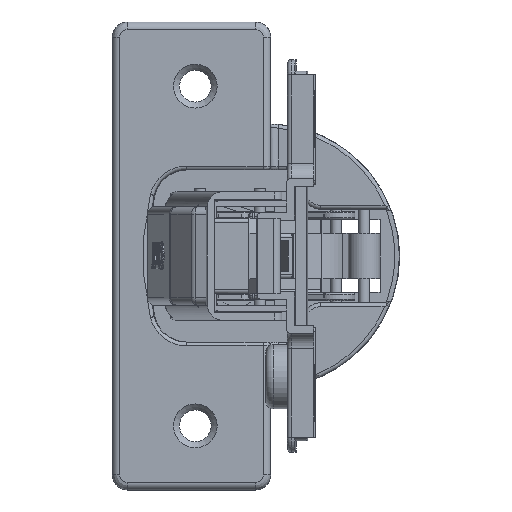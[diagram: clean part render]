
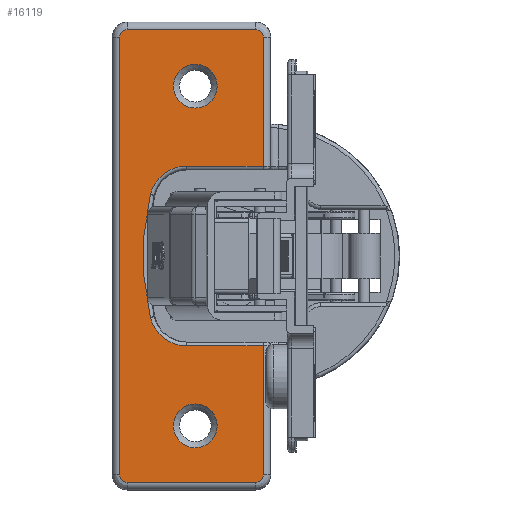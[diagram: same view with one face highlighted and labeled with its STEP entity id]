
A CAD part, left-side view. The second image highlights one B-rep face of the part: STEP entity #16119.
In plain terms, the highlighted planar face has unit normal (-1, 0.007, 0) as drawn and (0.179, 0.984, 0) by its records, which use the part's own axes.
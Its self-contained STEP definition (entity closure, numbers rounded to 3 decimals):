
#420=FACE_BOUND('',#2427,.T.);
#421=FACE_BOUND('',#2428,.T.);
#759=PLANE('',#17798);
#1492=FACE_OUTER_BOUND('',#2426,.T.);
#2426=EDGE_LOOP('',(#12789,#12790,#12791,#12792,#12793,#12794,#12795,#12796,
#12797,#12798,#12799,#12800,#12801,#12802));
#2427=EDGE_LOOP('',(#12803,#12804));
#2428=EDGE_LOOP('',(#12805,#12806));
#3498=LINE('',#26243,#4835);
#3500=LINE('',#26267,#4837);
#3589=LINE('',#26696,#4926);
#3590=LINE('',#26715,#4927);
#3592=LINE('',#26735,#4929);
#3594=LINE('',#26755,#4931);
#3596=LINE('',#26771,#4933);
#4835=VECTOR('',#20818,10.);
#4837=VECTOR('',#20848,10.);
#4926=VECTOR('',#21335,10.);
#4927=VECTOR('',#21346,10.);
#4929=VECTOR('',#21358,10.);
#4931=VECTOR('',#21370,10.);
#4933=VECTOR('',#21380,10.);
#5786=CIRCLE('',#17485,2.9);
#5787=CIRCLE('',#17486,2.9);
#5790=CIRCLE('',#17490,2.9);
#5791=CIRCLE('',#17491,2.9);
#5821=CIRCLE('',#17538,4.9);
#5824=CIRCLE('',#17542,34.9);
#5827=CIRCLE('',#17546,4.9);
#5946=CIRCLE('',#17750,1.);
#5950=CIRCLE('',#17755,1.);
#5954=CIRCLE('',#17760,1.);
#5958=CIRCLE('',#17765,1.);
#6921=VERTEX_POINT('',#25966);
#6922=VERTEX_POINT('',#25967);
#6925=VERTEX_POINT('',#25976);
#6926=VERTEX_POINT('',#25977);
#6960=VERTEX_POINT('',#26235);
#6962=VERTEX_POINT('',#26241);
#6964=VERTEX_POINT('',#26247);
#6966=VERTEX_POINT('',#26253);
#6968=VERTEX_POINT('',#26259);
#6970=VERTEX_POINT('',#26265);
#7088=VERTEX_POINT('',#26694);
#7090=VERTEX_POINT('',#26707);
#7092=VERTEX_POINT('',#26713);
#7094=VERTEX_POINT('',#26727);
#7096=VERTEX_POINT('',#26733);
#7098=VERTEX_POINT('',#26747);
#7100=VERTEX_POINT('',#26753);
#7101=VERTEX_POINT('',#26766);
#8768=EDGE_CURVE('',#6921,#6922,#5786,.T.);
#8769=EDGE_CURVE('',#6922,#6921,#5787,.T.);
#8773=EDGE_CURVE('',#6925,#6926,#5790,.T.);
#8774=EDGE_CURVE('',#6926,#6925,#5791,.T.);
#8829=EDGE_CURVE('',#6962,#6960,#3498,.T.);
#8832=EDGE_CURVE('',#6964,#6962,#5821,.T.);
#8835=EDGE_CURVE('',#6966,#6964,#5824,.T.);
#8838=EDGE_CURVE('',#6968,#6966,#5827,.T.);
#8841=EDGE_CURVE('',#6970,#6968,#3500,.T.);
#9049=EDGE_CURVE('',#7088,#6970,#3589,.T.);
#9051=EDGE_CURVE('',#7090,#7088,#5946,.T.);
#9054=EDGE_CURVE('',#7092,#7090,#3590,.T.);
#9057=EDGE_CURVE('',#7094,#7092,#5950,.T.);
#9060=EDGE_CURVE('',#7096,#7094,#3592,.T.);
#9063=EDGE_CURVE('',#7098,#7096,#5954,.T.);
#9066=EDGE_CURVE('',#7100,#7098,#3594,.T.);
#9069=EDGE_CURVE('',#7101,#7100,#5958,.T.);
#9071=EDGE_CURVE('',#6960,#7101,#3596,.T.);
#12789=ORIENTED_EDGE('',*,*,#8841,.F.);
#12790=ORIENTED_EDGE('',*,*,#9049,.F.);
#12791=ORIENTED_EDGE('',*,*,#9051,.F.);
#12792=ORIENTED_EDGE('',*,*,#9054,.F.);
#12793=ORIENTED_EDGE('',*,*,#9057,.F.);
#12794=ORIENTED_EDGE('',*,*,#9060,.F.);
#12795=ORIENTED_EDGE('',*,*,#9063,.F.);
#12796=ORIENTED_EDGE('',*,*,#9066,.F.);
#12797=ORIENTED_EDGE('',*,*,#9069,.F.);
#12798=ORIENTED_EDGE('',*,*,#9071,.F.);
#12799=ORIENTED_EDGE('',*,*,#8829,.F.);
#12800=ORIENTED_EDGE('',*,*,#8832,.F.);
#12801=ORIENTED_EDGE('',*,*,#8835,.F.);
#12802=ORIENTED_EDGE('',*,*,#8838,.F.);
#12803=ORIENTED_EDGE('',*,*,#8768,.T.);
#12804=ORIENTED_EDGE('',*,*,#8769,.T.);
#12805=ORIENTED_EDGE('',*,*,#8773,.T.);
#12806=ORIENTED_EDGE('',*,*,#8774,.T.);
#16119=ADVANCED_FACE('',(#1492,#420,#421),#759,.F.);
#17485=AXIS2_PLACEMENT_3D('',#25968,#20701,#20702);
#17486=AXIS2_PLACEMENT_3D('',#25969,#20703,#20704);
#17490=AXIS2_PLACEMENT_3D('',#25978,#20712,#20713);
#17491=AXIS2_PLACEMENT_3D('',#25979,#20714,#20715);
#17538=AXIS2_PLACEMENT_3D('',#26249,#20824,#20825);
#17542=AXIS2_PLACEMENT_3D('',#26255,#20832,#20833);
#17546=AXIS2_PLACEMENT_3D('',#26261,#20840,#20841);
#17750=AXIS2_PLACEMENT_3D('',#26709,#21338,#21339);
#17755=AXIS2_PLACEMENT_3D('',#26729,#21350,#21351);
#17760=AXIS2_PLACEMENT_3D('',#26749,#21362,#21363);
#17765=AXIS2_PLACEMENT_3D('',#26768,#21374,#21375);
#17798=AXIS2_PLACEMENT_3D('',#26849,#21467,#21468);
#20701=DIRECTION('center_axis',(-0.179,-0.984,0.));
#20702=DIRECTION('ref_axis',(0.984,-0.179,0.));
#20703=DIRECTION('center_axis',(-0.179,-0.984,0.));
#20704=DIRECTION('ref_axis',(0.984,-0.179,0.));
#20712=DIRECTION('center_axis',(-0.179,-0.984,0.));
#20713=DIRECTION('ref_axis',(0.984,-0.179,0.));
#20714=DIRECTION('center_axis',(-0.179,-0.984,0.));
#20715=DIRECTION('ref_axis',(0.984,-0.179,0.));
#20818=DIRECTION('',(-0.984,0.179,0.));
#20824=DIRECTION('center_axis',(0.179,0.984,0.));
#20825=DIRECTION('ref_axis',(0.609,-0.111,-0.785));
#20832=DIRECTION('center_axis',(0.179,0.984,0.));
#20833=DIRECTION('ref_axis',(0.984,-0.179,0.));
#20840=DIRECTION('center_axis',(0.179,0.984,0.));
#20841=DIRECTION('ref_axis',(0.609,-0.111,0.785));
#20848=DIRECTION('',(0.984,-0.179,0.));
#21335=DIRECTION('',(0.,0.,-1.));
#21338=DIRECTION('center_axis',(-0.179,-0.984,0.));
#21339=DIRECTION('ref_axis',(-0.696,0.126,0.707));
#21346=DIRECTION('',(-0.984,0.179,0.));
#21350=DIRECTION('center_axis',(-0.179,-0.984,0.));
#21351=DIRECTION('ref_axis',(0.696,-0.126,0.707));
#21358=DIRECTION('',(0.,0.,1.));
#21362=DIRECTION('center_axis',(-0.179,-0.984,0.));
#21363=DIRECTION('ref_axis',(0.696,-0.126,-0.707));
#21370=DIRECTION('',(0.984,-0.179,0.));
#21374=DIRECTION('center_axis',(-0.179,-0.984,0.));
#21375=DIRECTION('ref_axis',(-0.696,0.126,-0.707));
#21380=DIRECTION('',(0.,0.,-1.));
#21467=DIRECTION('center_axis',(-0.179,-0.984,0.));
#21468=DIRECTION('ref_axis',(0.,0.,-1.));
#25966=CARTESIAN_POINT('',(96.988,17.389,-22.5));
#25967=CARTESIAN_POINT('',(91.281,18.424,-22.5));
#25968=CARTESIAN_POINT('Origin',(94.135,17.906,-22.5));
#25969=CARTESIAN_POINT('Origin',(94.135,17.906,-22.5));
#25976=CARTESIAN_POINT('',(96.988,17.389,22.5));
#25977=CARTESIAN_POINT('',(91.281,18.424,22.5));
#25978=CARTESIAN_POINT('Origin',(94.135,17.906,22.5));
#25979=CARTESIAN_POINT('Origin',(94.135,17.906,22.5));
#26235=CARTESIAN_POINT('',(85.279,19.514,-11.9));
#26241=CARTESIAN_POINT('',(95.288,17.697,-11.9));
#26243=CARTESIAN_POINT('',(89.033,18.832,-11.9));
#26247=CARTESIAN_POINT('',(99.976,16.846,-8.143));
#26249=CARTESIAN_POINT('Origin',(95.288,17.697,-7.));
#26253=CARTESIAN_POINT('',(99.976,16.846,8.143));
#26255=CARTESIAN_POINT('Origin',(66.585,22.906,0.));
#26259=CARTESIAN_POINT('',(95.288,17.697,11.9));
#26261=CARTESIAN_POINT('Origin',(95.288,17.697,7.));
#26265=CARTESIAN_POINT('',(85.279,19.514,11.9));
#26267=CARTESIAN_POINT('',(95.574,17.645,11.9));
#26694=CARTESIAN_POINT('',(85.279,19.514,29.));
#26696=CARTESIAN_POINT('',(85.279,19.514,5.7));
#26707=CARTESIAN_POINT('',(86.263,19.335,30.));
#26709=CARTESIAN_POINT('Origin',(86.263,19.335,29.));
#26713=CARTESIAN_POINT('',(102.99,16.299,30.));
#26715=CARTESIAN_POINT('',(91.062,18.464,30.));
#26727=CARTESIAN_POINT('',(103.974,16.121,29.));
#26729=CARTESIAN_POINT('Origin',(102.99,16.299,29.));
#26733=CARTESIAN_POINT('',(103.974,16.121,-29.));
#26735=CARTESIAN_POINT('',(103.974,16.121,14.5));
#26747=CARTESIAN_POINT('',(102.99,16.299,-30.));
#26749=CARTESIAN_POINT('Origin',(102.99,16.299,-29.));
#26753=CARTESIAN_POINT('',(86.263,19.335,-30.));
#26755=CARTESIAN_POINT('',(99.425,16.946,-30.));
#26766=CARTESIAN_POINT('',(85.279,19.514,-29.));
#26768=CARTESIAN_POINT('Origin',(86.263,19.335,-29.));
#26771=CARTESIAN_POINT('',(85.279,19.514,-14.5));
#26849=CARTESIAN_POINT('Origin',(95.86,17.593,0.));
